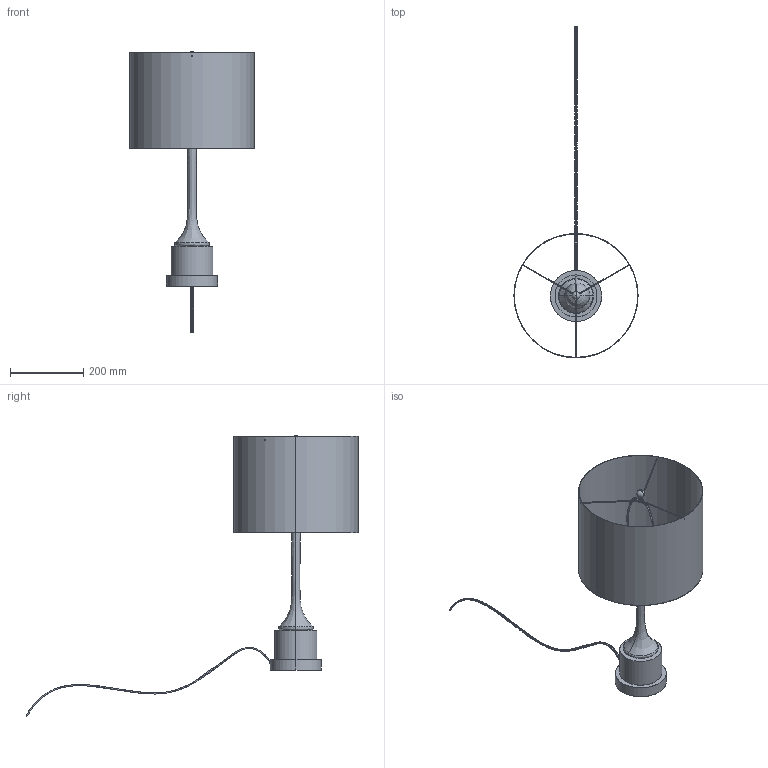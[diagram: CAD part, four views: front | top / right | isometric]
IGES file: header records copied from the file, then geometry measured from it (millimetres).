
Start section: SolidWorks IGES file using analytic representation for surfaces
Global section: file name: F:\燠隴矨\3D\9堎\Expino Table Lamp-D34XH64.IGS; native system: SolidWorks 2022; preprocessor: SolidWorks 2022; author: MyPC; date: 230917.174524; units: millimetre
Bounding box: 340 x 909.55 x 769.4 mm (x, y, z)
Surface area: 751851.9 mm2 (no closed solid volume)
Topology: 0 solids, 0 shells, 126 faces, 2468 edges, 2465 vertices
Faces by surface type: bspline 70, revolution 56
